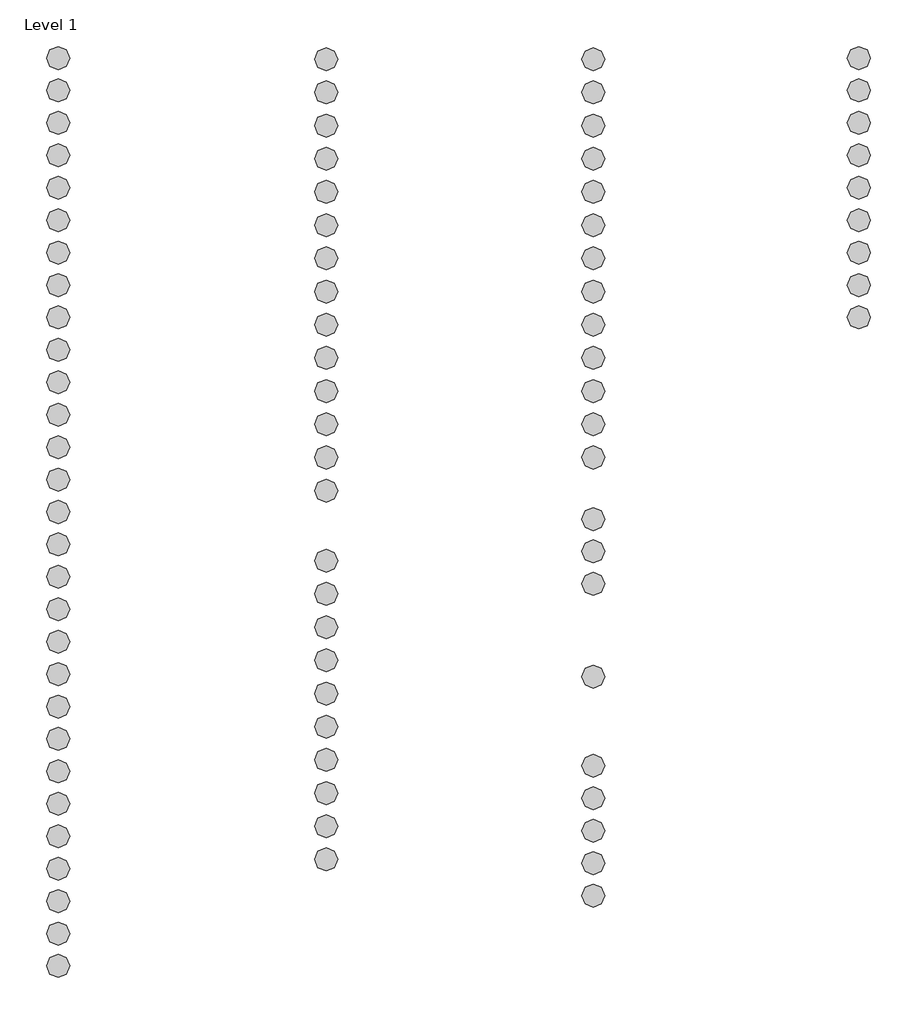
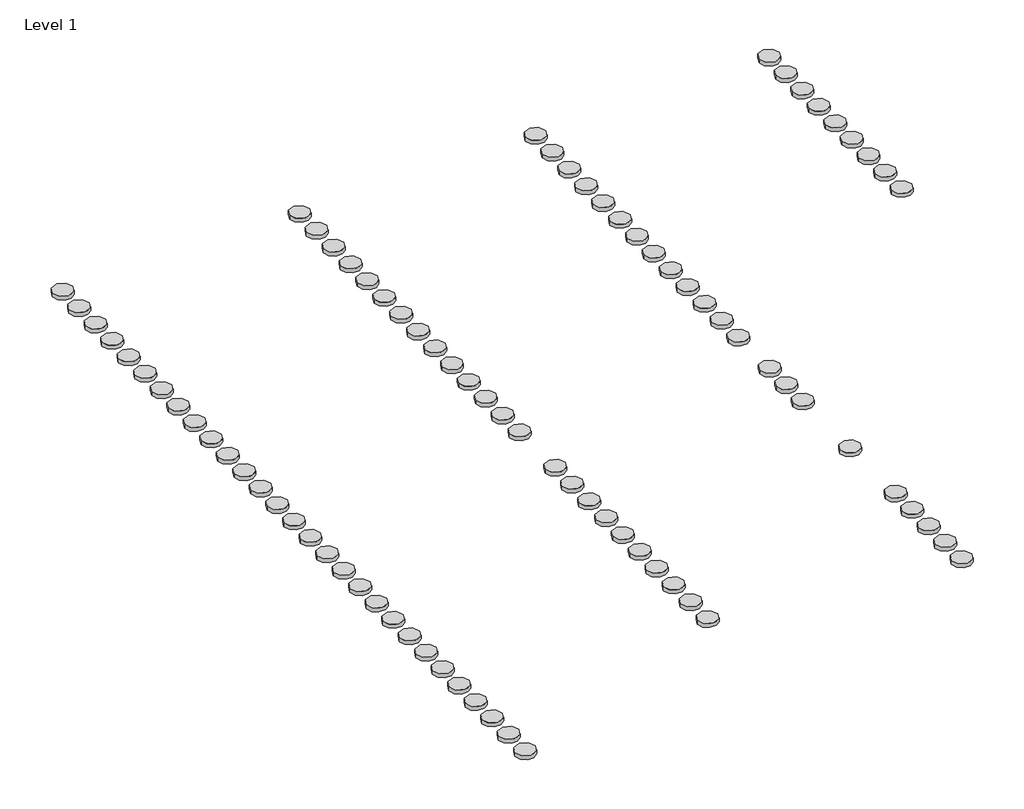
# One storey: 84 proxies.
"""IFC4 building model written with IfcOpenShell, lengths in millimetres."""

from ifc_helpers import new_model, si_unit, origin, place, context, project, spatial, transform, mapped, element, save
from components import materialmodel_materialmodel_58669afb

model = new_model("IFC4")

# Units and contexts
model_context = context("Model", 3, world=origin())
ifc_project = project(units=[si_unit("LENGTHUNIT", "METRE", prefix="MILLI")], contexts=[model_context])

# Site, building, storey
site = spatial("IfcSite", under=ifc_project)
building = spatial("IfcBuilding", under=site)
storey = spatial("IfcBuildingStorey", under=building, Name="Level 1", Elevation=0.0)

# Proxies
placement = place(None, origin())
materialmodel_materialmodel_shape = materialmodel_materialmodel_58669afb(model_context)
element("IfcBuildingElementProxy", 1, Name="MaterialModel : MaterialModel", ObjectType="MaterialModel : MaterialModel", at=placement, inside=storey, context=model_context, shape_type="MappedRepresentation", body=[
    mapped(materialmodel_materialmodel_shape, transform((-8374.1084344, 5998.17791, 0.0), x_axis=(1.0, 0.0, 0.0), y_axis=(0.0, 1.0, 0.0), z_axis=(0.0, 0.0, 1.0))),
])
element("IfcBuildingElementProxy", 2, Name="MaterialModel : MaterialModel", ObjectType="MaterialModel : MaterialModel", at=placement, inside=storey, context=model_context, shape_type="MappedRepresentation", body=[
    mapped(materialmodel_materialmodel_shape, transform((-8374.1084344, 5857.2060987, 0.0), x_axis=(1.0, 0.0, 0.0), y_axis=(0.0, 1.0, 0.0), z_axis=(0.0, 0.0, 1.0))),
])
element("IfcBuildingElementProxy", 3, Name="MaterialModel : MaterialModel", ObjectType="MaterialModel : MaterialModel", at=placement, inside=storey, context=model_context, shape_type="MappedRepresentation", body=[
    mapped(materialmodel_materialmodel_shape, transform((-7208.767327, 3812.5960294, 0.0), x_axis=(1.0, 0.0, 0.0), y_axis=(0.0, 1.0, 0.0), z_axis=(0.0, 0.0, 1.0))),
])
element("IfcBuildingElementProxy", 4, Name="MaterialModel : MaterialModel", ObjectType="MaterialModel : MaterialModel", at=placement, inside=storey, context=model_context, shape_type="MappedRepresentation", body=[
    mapped(materialmodel_materialmodel_shape, transform((-7208.767327, 3668.2908848, 0.0), x_axis=(1.0, 0.0, 0.0), y_axis=(0.0, 1.0, 0.0), z_axis=(0.0, 0.0, 1.0))),
])
element("IfcBuildingElementProxy", 5, Name="MaterialModel : MaterialModel", ObjectType="MaterialModel : MaterialModel", at=placement, inside=storey, context=model_context, shape_type="MappedRepresentation", body=[
    mapped(materialmodel_materialmodel_shape, transform((-7208.767327, 3379.6805955, 0.0), x_axis=(1.0, 0.0, 0.0), y_axis=(0.0, 1.0, 0.0), z_axis=(0.0, 0.0, 1.0))),
])
element("IfcBuildingElementProxy", 6, Name="MaterialModel : MaterialModel", ObjectType="MaterialModel : MaterialModel", at=placement, inside=storey, context=model_context, shape_type="MappedRepresentation", body=[
    mapped(materialmodel_materialmodel_shape, transform((-6047.3337418, 5993.17791, 0.0), x_axis=(1.0, 0.0, 0.0), y_axis=(0.0, 1.0, 0.0), z_axis=(0.0, 0.0, 1.0))),
])
element("IfcBuildingElementProxy", 7, Name="MaterialModel : MaterialModel", ObjectType="MaterialModel : MaterialModel", at=placement, inside=storey, context=model_context, shape_type="MappedRepresentation", body=[
    mapped(materialmodel_materialmodel_shape, transform((-8374.1084344, 5716.2342874, 0.0), x_axis=(1.0, 0.0, 0.0), y_axis=(0.0, 1.0, 0.0), z_axis=(0.0, 0.0, 1.0))),
])
element("IfcBuildingElementProxy", 8, Name="MaterialModel : MaterialModel", ObjectType="MaterialModel : MaterialModel", at=placement, inside=storey, context=model_context, shape_type="MappedRepresentation", body=[
    mapped(materialmodel_materialmodel_shape, transform((-8374.1084344, 5575.2624761, 0.0), x_axis=(1.0, 0.0, 0.0), y_axis=(0.0, 1.0, 0.0), z_axis=(0.0, 0.0, 1.0))),
])
element("IfcBuildingElementProxy", 9, Name="MaterialModel : MaterialModel", ObjectType="MaterialModel : MaterialModel", at=placement, inside=storey, context=model_context, shape_type="MappedRepresentation", body=[
    mapped(materialmodel_materialmodel_shape, transform((-6047.3337418, 5560.2624761, 0.0), x_axis=(1.0, 0.0, 0.0), y_axis=(0.0, 1.0, 0.0), z_axis=(0.0, 0.0, 1.0))),
])
element("IfcBuildingElementProxy", 10, Name="MaterialModel : MaterialModel", ObjectType="MaterialModel : MaterialModel", at=placement, inside=storey, context=model_context, shape_type="MappedRepresentation", body=[
    mapped(materialmodel_materialmodel_shape, transform((-6047.3337418, 3993.8459485, 0.0), x_axis=(1.0, 0.0, 0.0), y_axis=(0.0, 1.0, 0.0), z_axis=(0.0, 0.0, 1.0))),
])
element("IfcBuildingElementProxy", 11, Name="MaterialModel : MaterialModel", ObjectType="MaterialModel : MaterialModel", at=placement, inside=storey, context=model_context, shape_type="MappedRepresentation", body=[
    mapped(materialmodel_materialmodel_shape, transform((-6047.3337418, 3852.8741372, 0.0), x_axis=(1.0, 0.0, 0.0), y_axis=(0.0, 1.0, 0.0), z_axis=(0.0, 0.0, 1.0))),
])
element("IfcBuildingElementProxy", 12, Name="MaterialModel : MaterialModel", ObjectType="MaterialModel : MaterialModel", at=placement, inside=storey, context=model_context, shape_type="MappedRepresentation", body=[
    mapped(materialmodel_materialmodel_shape, transform((-6047.3337418, 3308.8725927, 0.0), x_axis=(1.0, 0.0, 0.0), y_axis=(0.0, 1.0, 0.0), z_axis=(0.0, 0.0, 1.0))),
])
element("IfcBuildingElementProxy", 13, Name="MaterialModel : MaterialModel", ObjectType="MaterialModel : MaterialModel", at=placement, inside=storey, context=model_context, shape_type="MappedRepresentation", body=[
    mapped(materialmodel_materialmodel_shape, transform((-6047.3337418, 2921.0835593, 0.0), x_axis=(1.0, 0.0, 0.0), y_axis=(0.0, 1.0, 0.0), z_axis=(0.0, 0.0, 1.0))),
])
element("IfcBuildingElementProxy", 14, Name="MaterialModel : MaterialModel", ObjectType="MaterialModel : MaterialModel", at=placement, inside=storey, context=model_context, shape_type="MappedRepresentation", body=[
    mapped(materialmodel_materialmodel_shape, transform((-6047.3337418, 5415.9573314, 0.0), x_axis=(1.0, 0.0, 0.0), y_axis=(0.0, 1.0, 0.0), z_axis=(0.0, 0.0, 1.0))),
])
element("IfcBuildingElementProxy", 15, Name="MaterialModel : MaterialModel", ObjectType="MaterialModel : MaterialModel", at=placement, inside=storey, context=model_context, shape_type="MappedRepresentation", body=[
    mapped(materialmodel_materialmodel_shape, transform((-6047.3337418, 5271.6521868, 0.0), x_axis=(1.0, 0.0, 0.0), y_axis=(0.0, 1.0, 0.0), z_axis=(0.0, 0.0, 1.0))),
])
element("IfcBuildingElementProxy", 16, Name="MaterialModel : MaterialModel", ObjectType="MaterialModel : MaterialModel", at=placement, inside=storey, context=model_context, shape_type="MappedRepresentation", body=[
    mapped(materialmodel_materialmodel_shape, transform((-6047.3337418, 5127.3470422, 0.0), x_axis=(1.0, 0.0, 0.0), y_axis=(0.0, 1.0, 0.0), z_axis=(0.0, 0.0, 1.0))),
])
element("IfcBuildingElementProxy", 17, Name="MaterialModel : MaterialModel", ObjectType="MaterialModel : MaterialModel", at=placement, inside=storey, context=model_context, shape_type="MappedRepresentation", body=[
    mapped(materialmodel_materialmodel_shape, transform((-7208.767327, 5993.17791, 0.0), x_axis=(1.0, 0.0, 0.0), y_axis=(0.0, 1.0, 0.0), z_axis=(0.0, 0.0, 1.0))),
])
element("IfcBuildingElementProxy", 18, Name="MaterialModel : MaterialModel", ObjectType="MaterialModel : MaterialModel", at=placement, inside=storey, context=model_context, shape_type="MappedRepresentation", body=[
    mapped(materialmodel_materialmodel_shape, transform((-7208.767327, 5848.8727653, 0.0), x_axis=(1.0, 0.0, 0.0), y_axis=(0.0, 1.0, 0.0), z_axis=(0.0, 0.0, 1.0))),
])
element("IfcBuildingElementProxy", 19, Name="MaterialModel : MaterialModel", ObjectType="MaterialModel : MaterialModel", at=placement, inside=storey, context=model_context, shape_type="MappedRepresentation", body=[
    mapped(materialmodel_materialmodel_shape, transform((-8374.1084344, 5434.2906648, 0.0), x_axis=(1.0, 0.0, 0.0), y_axis=(0.0, 1.0, 0.0), z_axis=(0.0, 0.0, 1.0))),
])
element("IfcBuildingElementProxy", 20, Name="MaterialModel : MaterialModel", ObjectType="MaterialModel : MaterialModel", at=placement, inside=storey, context=model_context, shape_type="MappedRepresentation", body=[
    mapped(materialmodel_materialmodel_shape, transform((-7208.767327, 5560.2624761, 0.0), x_axis=(1.0, 0.0, 0.0), y_axis=(0.0, 1.0, 0.0), z_axis=(0.0, 0.0, 1.0))),
])
element("IfcBuildingElementProxy", 21, Name="MaterialModel : MaterialModel", ObjectType="MaterialModel : MaterialModel", at=placement, inside=storey, context=model_context, shape_type="MappedRepresentation", body=[
    mapped(materialmodel_materialmodel_shape, transform((-7208.767327, 5415.9573314, 0.0), x_axis=(1.0, 0.0, 0.0), y_axis=(0.0, 1.0, 0.0), z_axis=(0.0, 0.0, 1.0))),
])
element("IfcBuildingElementProxy", 22, Name="MaterialModel : MaterialModel", ObjectType="MaterialModel : MaterialModel", at=placement, inside=storey, context=model_context, shape_type="MappedRepresentation", body=[
    mapped(materialmodel_materialmodel_shape, transform((-8374.1084344, 5293.3188535, 0.0), x_axis=(1.0, 0.0, 0.0), y_axis=(0.0, 1.0, 0.0), z_axis=(0.0, 0.0, 1.0))),
])
element("IfcBuildingElementProxy", 23, Name="MaterialModel : MaterialModel", ObjectType="MaterialModel : MaterialModel", at=placement, inside=storey, context=model_context, shape_type="MappedRepresentation", body=[
    mapped(materialmodel_materialmodel_shape, transform((-8374.1084344, 4729.4316083, 0.0), x_axis=(1.0, 0.0, 0.0), y_axis=(0.0, 1.0, 0.0), z_axis=(0.0, 0.0, 1.0))),
])
element("IfcBuildingElementProxy", 24, Name="MaterialModel : MaterialModel", ObjectType="MaterialModel : MaterialModel", at=placement, inside=storey, context=model_context, shape_type="MappedRepresentation", body=[
    mapped(materialmodel_materialmodel_shape, transform((-8374.1084344, 4588.459797, 0.0), x_axis=(1.0, 0.0, 0.0), y_axis=(0.0, 1.0, 0.0), z_axis=(0.0, 0.0, 1.0))),
])
element("IfcBuildingElementProxy", 25, Name="MaterialModel : MaterialModel", ObjectType="MaterialModel : MaterialModel", at=placement, inside=storey, context=model_context, shape_type="MappedRepresentation", body=[
    mapped(materialmodel_materialmodel_shape, transform((-8374.1084344, 4447.4879857, 0.0), x_axis=(1.0, 0.0, 0.0), y_axis=(0.0, 1.0, 0.0), z_axis=(0.0, 0.0, 1.0))),
])
element("IfcBuildingElementProxy", 26, Name="MaterialModel : MaterialModel", ObjectType="MaterialModel : MaterialModel", at=placement, inside=storey, context=model_context, shape_type="MappedRepresentation", body=[
    mapped(materialmodel_materialmodel_shape, transform((-8374.1084344, 4306.5161744, 0.0), x_axis=(1.0, 0.0, 0.0), y_axis=(0.0, 1.0, 0.0), z_axis=(0.0, 0.0, 1.0))),
])
element("IfcBuildingElementProxy", 27, Name="MaterialModel : MaterialModel", ObjectType="MaterialModel : MaterialModel", at=placement, inside=storey, context=model_context, shape_type="MappedRepresentation", body=[
    mapped(materialmodel_materialmodel_shape, transform((-8374.1084344, 4165.5443631, 0.0), x_axis=(1.0, 0.0, 0.0), y_axis=(0.0, 1.0, 0.0), z_axis=(0.0, 0.0, 1.0))),
])
element("IfcBuildingElementProxy", 28, Name="MaterialModel : MaterialModel", ObjectType="MaterialModel : MaterialModel", at=placement, inside=storey, context=model_context, shape_type="MappedRepresentation", body=[
    mapped(materialmodel_materialmodel_shape, transform((-8374.1084344, 3883.6007405, 0.0), x_axis=(1.0, 0.0, 0.0), y_axis=(0.0, 1.0, 0.0), z_axis=(0.0, 0.0, 1.0))),
])
element("IfcBuildingElementProxy", 29, Name="MaterialModel : MaterialModel", ObjectType="MaterialModel : MaterialModel", at=placement, inside=storey, context=model_context, shape_type="MappedRepresentation", body=[
    mapped(materialmodel_materialmodel_shape, transform((-7208.767327, 5271.6521868, 0.0), x_axis=(1.0, 0.0, 0.0), y_axis=(0.0, 1.0, 0.0), z_axis=(0.0, 0.0, 1.0))),
])
element("IfcBuildingElementProxy", 30, Name="MaterialModel : MaterialModel", ObjectType="MaterialModel : MaterialModel", at=placement, inside=storey, context=model_context, shape_type="MappedRepresentation", body=[
    mapped(materialmodel_materialmodel_shape, transform((-6047.3337418, 2780.111748, 0.0), x_axis=(1.0, 0.0, 0.0), y_axis=(0.0, 1.0, 0.0), z_axis=(0.0, 0.0, 1.0))),
])
element("IfcBuildingElementProxy", 31, Name="MaterialModel : MaterialModel", ObjectType="MaterialModel : MaterialModel", at=placement, inside=storey, context=model_context, shape_type="MappedRepresentation", body=[
    mapped(materialmodel_materialmodel_shape, transform((-6047.3337418, 2639.1399367, 0.0), x_axis=(1.0, 0.0, 0.0), y_axis=(0.0, 1.0, 0.0), z_axis=(0.0, 0.0, 1.0))),
])
element("IfcBuildingElementProxy", 32, Name="MaterialModel : MaterialModel", ObjectType="MaterialModel : MaterialModel", at=placement, inside=storey, context=model_context, shape_type="MappedRepresentation", body=[
    mapped(materialmodel_materialmodel_shape, transform((-7208.767327, 3235.3754509, 0.0), x_axis=(1.0, 0.0, 0.0), y_axis=(0.0, 1.0, 0.0), z_axis=(0.0, 0.0, 1.0))),
])
element("IfcBuildingElementProxy", 33, Name="MaterialModel : MaterialModel", ObjectType="MaterialModel : MaterialModel", at=placement, inside=storey, context=model_context, shape_type="MappedRepresentation", body=[
    mapped(materialmodel_materialmodel_shape, transform((-7208.767327, 3091.0703062, 0.0), x_axis=(1.0, 0.0, 0.0), y_axis=(0.0, 1.0, 0.0), z_axis=(0.0, 0.0, 1.0))),
])
element("IfcBuildingElementProxy", 34, Name="MaterialModel : MaterialModel", ObjectType="MaterialModel : MaterialModel", at=placement, inside=storey, context=model_context, shape_type="MappedRepresentation", body=[
    mapped(materialmodel_materialmodel_shape, transform((-6047.3337418, 4838.7367529, 0.0), x_axis=(1.0, 0.0, 0.0), y_axis=(0.0, 1.0, 0.0), z_axis=(0.0, 0.0, 1.0))),
])
element("IfcBuildingElementProxy", 35, Name="MaterialModel : MaterialModel", ObjectType="MaterialModel : MaterialModel", at=placement, inside=storey, context=model_context, shape_type="MappedRepresentation", body=[
    mapped(materialmodel_materialmodel_shape, transform((-8374.1084344, 4024.5725518, 0.0), x_axis=(1.0, 0.0, 0.0), y_axis=(0.0, 1.0, 0.0), z_axis=(0.0, 0.0, 1.0))),
])
element("IfcBuildingElementProxy", 36, Name="MaterialModel : MaterialModel", ObjectType="MaterialModel : MaterialModel", at=placement, inside=storey, context=model_context, shape_type="MappedRepresentation", body=[
    mapped(materialmodel_materialmodel_shape, transform((-8374.1084344, 3601.6571179, 0.0), x_axis=(1.0, 0.0, 0.0), y_axis=(0.0, 1.0, 0.0), z_axis=(0.0, 0.0, 1.0))),
])
element("IfcBuildingElementProxy", 37, Name="MaterialModel : MaterialModel", ObjectType="MaterialModel : MaterialModel", at=placement, inside=storey, context=model_context, shape_type="MappedRepresentation", body=[
    mapped(materialmodel_materialmodel_shape, transform((-8374.1084344, 3460.6853066, 0.0), x_axis=(1.0, 0.0, 0.0), y_axis=(0.0, 1.0, 0.0), z_axis=(0.0, 0.0, 1.0))),
])
element("IfcBuildingElementProxy", 38, Name="MaterialModel : MaterialModel", ObjectType="MaterialModel : MaterialModel", at=placement, inside=storey, context=model_context, shape_type="MappedRepresentation", body=[
    mapped(materialmodel_materialmodel_shape, transform((-8374.1084344, 3319.7134953, 0.0), x_axis=(1.0, 0.0, 0.0), y_axis=(0.0, 1.0, 0.0), z_axis=(0.0, 0.0, 1.0))),
])
element("IfcBuildingElementProxy", 39, Name="MaterialModel : MaterialModel", ObjectType="MaterialModel : MaterialModel", at=placement, inside=storey, context=model_context, shape_type="MappedRepresentation", body=[
    mapped(materialmodel_materialmodel_shape, transform((-7208.767327, 5127.3470422, 0.0), x_axis=(1.0, 0.0, 0.0), y_axis=(0.0, 1.0, 0.0), z_axis=(0.0, 0.0, 1.0))),
])
element("IfcBuildingElementProxy", 40, Name="MaterialModel : MaterialModel", ObjectType="MaterialModel : MaterialModel", at=placement, inside=storey, context=model_context, shape_type="MappedRepresentation", body=[
    mapped(materialmodel_materialmodel_shape, transform((-7208.767327, 4983.0418975, 0.0), x_axis=(1.0, 0.0, 0.0), y_axis=(0.0, 1.0, 0.0), z_axis=(0.0, 0.0, 1.0))),
])
element("IfcBuildingElementProxy", 41, Name="MaterialModel : MaterialModel", ObjectType="MaterialModel : MaterialModel", at=placement, inside=storey, context=model_context, shape_type="MappedRepresentation", body=[
    mapped(materialmodel_materialmodel_shape, transform((-7208.767327, 4838.7367529, 0.0), x_axis=(1.0, 0.0, 0.0), y_axis=(0.0, 1.0, 0.0), z_axis=(0.0, 0.0, 1.0))),
])
element("IfcBuildingElementProxy", 42, Name="MaterialModel : MaterialModel", ObjectType="MaterialModel : MaterialModel", at=placement, inside=storey, context=model_context, shape_type="MappedRepresentation", body=[
    mapped(materialmodel_materialmodel_shape, transform((-8374.1084344, 5011.3752309, 0.0), x_axis=(1.0, 0.0, 0.0), y_axis=(0.0, 1.0, 0.0), z_axis=(0.0, 0.0, 1.0))),
])
element("IfcBuildingElementProxy", 43, Name="MaterialModel : MaterialModel", ObjectType="MaterialModel : MaterialModel", at=placement, inside=storey, context=model_context, shape_type="MappedRepresentation", body=[
    mapped(materialmodel_materialmodel_shape, transform((-7208.767327, 4694.4316083, 0.0), x_axis=(1.0, 0.0, 0.0), y_axis=(0.0, 1.0, 0.0), z_axis=(0.0, 0.0, 1.0))),
])
element("IfcBuildingElementProxy", 44, Name="MaterialModel : MaterialModel", ObjectType="MaterialModel : MaterialModel", at=placement, inside=storey, context=model_context, shape_type="MappedRepresentation", body=[
    mapped(materialmodel_materialmodel_shape, transform((-7208.767327, 4117.2110297, 0.0), x_axis=(1.0, 0.0, 0.0), y_axis=(0.0, 1.0, 0.0), z_axis=(0.0, 0.0, 1.0))),
])
element("IfcBuildingElementProxy", 45, Name="MaterialModel : MaterialModel", ObjectType="MaterialModel : MaterialModel", at=placement, inside=storey, context=model_context, shape_type="MappedRepresentation", body=[
    mapped(materialmodel_materialmodel_shape, transform((-8374.1084344, 3178.741684, 0.0), x_axis=(1.0, 0.0, 0.0), y_axis=(0.0, 1.0, 0.0), z_axis=(0.0, 0.0, 1.0))),
])
element("IfcBuildingElementProxy", 46, Name="MaterialModel : MaterialModel", ObjectType="MaterialModel : MaterialModel", at=placement, inside=storey, context=model_context, shape_type="MappedRepresentation", body=[
    mapped(materialmodel_materialmodel_shape, transform((-8374.1084344, 3037.7698727, 0.0), x_axis=(1.0, 0.0, 0.0), y_axis=(0.0, 1.0, 0.0), z_axis=(0.0, 0.0, 1.0))),
])
element("IfcBuildingElementProxy", 47, Name="MaterialModel : MaterialModel", ObjectType="MaterialModel : MaterialModel", at=placement, inside=storey, context=model_context, shape_type="MappedRepresentation", body=[
    mapped(materialmodel_materialmodel_shape, transform((-8374.1084344, 2896.7980614, 0.0), x_axis=(1.0, 0.0, 0.0), y_axis=(0.0, 1.0, 0.0), z_axis=(0.0, 0.0, 1.0))),
])
element("IfcBuildingElementProxy", 48, Name="MaterialModel : MaterialModel", ObjectType="MaterialModel : MaterialModel", at=placement, inside=storey, context=model_context, shape_type="MappedRepresentation", body=[
    mapped(materialmodel_materialmodel_shape, transform((-8374.1084344, 2755.8262501, 0.0), x_axis=(1.0, 0.0, 0.0), y_axis=(0.0, 1.0, 0.0), z_axis=(0.0, 0.0, 1.0))),
])
element("IfcBuildingElementProxy", 49, Name="MaterialModel : MaterialModel", ObjectType="MaterialModel : MaterialModel", at=placement, inside=storey, context=model_context, shape_type="MappedRepresentation", body=[
    mapped(materialmodel_materialmodel_shape, transform((-7208.767327, 4405.821319, 0.0), x_axis=(1.0, 0.0, 0.0), y_axis=(0.0, 1.0, 0.0), z_axis=(0.0, 0.0, 1.0))),
])
element("IfcBuildingElementProxy", 50, Name="MaterialModel : MaterialModel", ObjectType="MaterialModel : MaterialModel", at=placement, inside=storey, context=model_context, shape_type="MappedRepresentation", body=[
    mapped(materialmodel_materialmodel_shape, transform((-7208.767327, 4261.5161744, 0.0), x_axis=(1.0, 0.0, 0.0), y_axis=(0.0, 1.0, 0.0), z_axis=(0.0, 0.0, 1.0))),
])
element("IfcBuildingElementProxy", 51, Name="MaterialModel : MaterialModel", ObjectType="MaterialModel : MaterialModel", at=placement, inside=storey, context=model_context, shape_type="MappedRepresentation", body=[
    mapped(materialmodel_materialmodel_shape, transform((-6047.3337418, 2498.1681254, 0.0), x_axis=(1.0, 0.0, 0.0), y_axis=(0.0, 1.0, 0.0), z_axis=(0.0, 0.0, 1.0))),
])
element("IfcBuildingElementProxy", 52, Name="MaterialModel : MaterialModel", ObjectType="MaterialModel : MaterialModel", at=placement, inside=storey, context=model_context, shape_type="MappedRepresentation", body=[
    mapped(materialmodel_materialmodel_shape, transform((-6047.3337418, 5848.8727653, 0.0), x_axis=(1.0, 0.0, 0.0), y_axis=(0.0, 1.0, 0.0), z_axis=(0.0, 0.0, 1.0))),
])
element("IfcBuildingElementProxy", 53, Name="MaterialModel : MaterialModel", ObjectType="MaterialModel : MaterialModel", at=placement, inside=storey, context=model_context, shape_type="MappedRepresentation", body=[
    mapped(materialmodel_materialmodel_shape, transform((-4892.3111127, 5998.17791, 0.0), x_axis=(1.0, 0.0, 0.0), y_axis=(0.0, 1.0, 0.0), z_axis=(0.0, 0.0, 1.0))),
])
element("IfcBuildingElementProxy", 54, Name="MaterialModel : MaterialModel", ObjectType="MaterialModel : MaterialModel", at=placement, inside=storey, context=model_context, shape_type="MappedRepresentation", body=[
    mapped(materialmodel_materialmodel_shape, transform((-4892.3111127, 5857.2060987, 0.0), x_axis=(1.0, 0.0, 0.0), y_axis=(0.0, 1.0, 0.0), z_axis=(0.0, 0.0, 1.0))),
])
element("IfcBuildingElementProxy", 55, Name="MaterialModel : MaterialModel", ObjectType="MaterialModel : MaterialModel", at=placement, inside=storey, context=model_context, shape_type="MappedRepresentation", body=[
    mapped(materialmodel_materialmodel_shape, transform((-4892.3111127, 5716.2342874, 0.0), x_axis=(1.0, 0.0, 0.0), y_axis=(0.0, 1.0, 0.0), z_axis=(0.0, 0.0, 1.0))),
])
element("IfcBuildingElementProxy", 56, Name="MaterialModel : MaterialModel", ObjectType="MaterialModel : MaterialModel", at=placement, inside=storey, context=model_context, shape_type="MappedRepresentation", body=[
    mapped(materialmodel_materialmodel_shape, transform((-4892.3111127, 5575.2624761, 0.0), x_axis=(1.0, 0.0, 0.0), y_axis=(0.0, 1.0, 0.0), z_axis=(0.0, 0.0, 1.0))),
])
element("IfcBuildingElementProxy", 57, Name="MaterialModel : MaterialModel", ObjectType="MaterialModel : MaterialModel", at=placement, inside=storey, context=model_context, shape_type="MappedRepresentation", body=[
    mapped(materialmodel_materialmodel_shape, transform((-4892.3111127, 5434.2906648, 0.0), x_axis=(1.0, 0.0, 0.0), y_axis=(0.0, 1.0, 0.0), z_axis=(0.0, 0.0, 1.0))),
])
element("IfcBuildingElementProxy", 58, Name="MaterialModel : MaterialModel", ObjectType="MaterialModel : MaterialModel", at=placement, inside=storey, context=model_context, shape_type="MappedRepresentation", body=[
    mapped(materialmodel_materialmodel_shape, transform((-4892.3111127, 5293.3188535, 0.0), x_axis=(1.0, 0.0, 0.0), y_axis=(0.0, 1.0, 0.0), z_axis=(0.0, 0.0, 1.0))),
])
element("IfcBuildingElementProxy", 59, Name="MaterialModel : MaterialModel", ObjectType="MaterialModel : MaterialModel", at=placement, inside=storey, context=model_context, shape_type="MappedRepresentation", body=[
    mapped(materialmodel_materialmodel_shape, transform((-4892.3111127, 5152.3470422, 0.0), x_axis=(1.0, 0.0, 0.0), y_axis=(0.0, 1.0, 0.0), z_axis=(0.0, 0.0, 1.0))),
])
element("IfcBuildingElementProxy", 60, Name="MaterialModel : MaterialModel", ObjectType="MaterialModel : MaterialModel", at=placement, inside=storey, context=model_context, shape_type="MappedRepresentation", body=[
    mapped(materialmodel_materialmodel_shape, transform((-4892.3111127, 5011.3752309, 0.0), x_axis=(1.0, 0.0, 0.0), y_axis=(0.0, 1.0, 0.0), z_axis=(0.0, 0.0, 1.0))),
])
element("IfcBuildingElementProxy", 61, Name="MaterialModel : MaterialModel", ObjectType="MaterialModel : MaterialModel", at=placement, inside=storey, context=model_context, shape_type="MappedRepresentation", body=[
    mapped(materialmodel_materialmodel_shape, transform((-4892.3111127, 4870.4034196, 0.0), x_axis=(1.0, 0.0, 0.0), y_axis=(0.0, 1.0, 0.0), z_axis=(0.0, 0.0, 1.0))),
])
element("IfcBuildingElementProxy", 62, Name="MaterialModel : MaterialModel", ObjectType="MaterialModel : MaterialModel", at=placement, inside=storey, context=model_context, shape_type="MappedRepresentation", body=[
    mapped(materialmodel_materialmodel_shape, transform((-6047.3337418, 3711.9023259, 0.0), x_axis=(1.0, 0.0, 0.0), y_axis=(0.0, 1.0, 0.0), z_axis=(0.0, 0.0, 1.0))),
])
element("IfcBuildingElementProxy", 63, Name="MaterialModel : MaterialModel", ObjectType="MaterialModel : MaterialModel", at=placement, inside=storey, context=model_context, shape_type="MappedRepresentation", body=[
    mapped(materialmodel_materialmodel_shape, transform((-8374.1084344, 2614.8544388, 0.0), x_axis=(1.0, 0.0, 0.0), y_axis=(0.0, 1.0, 0.0), z_axis=(0.0, 0.0, 1.0))),
])
element("IfcBuildingElementProxy", 64, Name="MaterialModel : MaterialModel", ObjectType="MaterialModel : MaterialModel", at=placement, inside=storey, context=model_context, shape_type="MappedRepresentation", body=[
    mapped(materialmodel_materialmodel_shape, transform((-8374.1084344, 2473.8826275, 0.0), x_axis=(1.0, 0.0, 0.0), y_axis=(0.0, 1.0, 0.0), z_axis=(0.0, 0.0, 1.0))),
])
element("IfcBuildingElementProxy", 65, Name="MaterialModel : MaterialModel", ObjectType="MaterialModel : MaterialModel", at=placement, inside=storey, context=model_context, shape_type="MappedRepresentation", body=[
    mapped(materialmodel_materialmodel_shape, transform((-8374.1084344, 2332.9108162, 0.0), x_axis=(1.0, 0.0, 0.0), y_axis=(0.0, 1.0, 0.0), z_axis=(0.0, 0.0, 1.0))),
])
element("IfcBuildingElementProxy", 66, Name="MaterialModel : MaterialModel", ObjectType="MaterialModel : MaterialModel", at=placement, inside=storey, context=model_context, shape_type="MappedRepresentation", body=[
    mapped(materialmodel_materialmodel_shape, transform((-7208.767327, 2946.7651616, 0.0), x_axis=(1.0, 0.0, 0.0), y_axis=(0.0, 1.0, 0.0), z_axis=(0.0, 0.0, 1.0))),
])
element("IfcBuildingElementProxy", 67, Name="MaterialModel : MaterialModel", ObjectType="MaterialModel : MaterialModel", at=placement, inside=storey, context=model_context, shape_type="MappedRepresentation", body=[
    mapped(materialmodel_materialmodel_shape, transform((-7208.767327, 2802.460017, 0.0), x_axis=(1.0, 0.0, 0.0), y_axis=(0.0, 1.0, 0.0), z_axis=(0.0, 0.0, 1.0))),
])
element("IfcBuildingElementProxy", 68, Name="MaterialModel : MaterialModel", ObjectType="MaterialModel : MaterialModel", at=placement, inside=storey, context=model_context, shape_type="MappedRepresentation", body=[
    mapped(materialmodel_materialmodel_shape, transform((-7208.767327, 2513.8497277, 0.0), x_axis=(1.0, 0.0, 0.0), y_axis=(0.0, 1.0, 0.0), z_axis=(0.0, 0.0, 1.0))),
])
element("IfcBuildingElementProxy", 69, Name="MaterialModel : MaterialModel", ObjectType="MaterialModel : MaterialModel", at=placement, inside=storey, context=model_context, shape_type="MappedRepresentation", body=[
    mapped(materialmodel_materialmodel_shape, transform((-7208.767327, 3523.9857401, 0.0), x_axis=(1.0, 0.0, 0.0), y_axis=(0.0, 1.0, 0.0), z_axis=(0.0, 0.0, 1.0))),
])
element("IfcBuildingElementProxy", 70, Name="MaterialModel : MaterialModel", ObjectType="MaterialModel : MaterialModel", at=placement, inside=storey, context=model_context, shape_type="MappedRepresentation", body=[
    mapped(materialmodel_materialmodel_shape, transform((-8374.1084344, 2191.9390049, 0.0), x_axis=(1.0, 0.0, 0.0), y_axis=(0.0, 1.0, 0.0), z_axis=(0.0, 0.0, 1.0))),
])
element("IfcBuildingElementProxy", 71, Name="MaterialModel : MaterialModel", ObjectType="MaterialModel : MaterialModel", at=placement, inside=storey, context=model_context, shape_type="MappedRepresentation", body=[
    mapped(materialmodel_materialmodel_shape, transform((-6047.3337418, 4694.4316083, 0.0), x_axis=(1.0, 0.0, 0.0), y_axis=(0.0, 1.0, 0.0), z_axis=(0.0, 0.0, 1.0))),
])
element("IfcBuildingElementProxy", 72, Name="MaterialModel : MaterialModel", ObjectType="MaterialModel : MaterialModel", at=placement, inside=storey, context=model_context, shape_type="MappedRepresentation", body=[
    mapped(materialmodel_materialmodel_shape, transform((-6047.3337418, 2357.1963141, 0.0), x_axis=(1.0, 0.0, 0.0), y_axis=(0.0, 1.0, 0.0), z_axis=(0.0, 0.0, 1.0))),
])
element("IfcBuildingElementProxy", 73, Name="MaterialModel : MaterialModel", ObjectType="MaterialModel : MaterialModel", at=placement, inside=storey, context=model_context, shape_type="MappedRepresentation", body=[
    mapped(materialmodel_materialmodel_shape, transform((-8374.1084344, 2050.9671936, 0.0), x_axis=(1.0, 0.0, 0.0), y_axis=(0.0, 1.0, 0.0), z_axis=(0.0, 0.0, 1.0))),
])
element("IfcBuildingElementProxy", 74, Name="MaterialModel : MaterialModel", ObjectType="MaterialModel : MaterialModel", at=placement, inside=storey, context=model_context, shape_type="MappedRepresentation", body=[
    mapped(materialmodel_materialmodel_shape, transform((-8374.1084344, 3742.6289292, 0.0), x_axis=(1.0, 0.0, 0.0), y_axis=(0.0, 1.0, 0.0), z_axis=(0.0, 0.0, 1.0))),
])
element("IfcBuildingElementProxy", 75, Name="MaterialModel : MaterialModel", ObjectType="MaterialModel : MaterialModel", at=placement, inside=storey, context=model_context, shape_type="MappedRepresentation", body=[
    mapped(materialmodel_materialmodel_shape, transform((-6047.3337418, 4550.1264636, 0.0), x_axis=(1.0, 0.0, 0.0), y_axis=(0.0, 1.0, 0.0), z_axis=(0.0, 0.0, 1.0))),
])
element("IfcBuildingElementProxy", 76, Name="MaterialModel : MaterialModel", ObjectType="MaterialModel : MaterialModel", at=placement, inside=storey, context=model_context, shape_type="MappedRepresentation", body=[
    mapped(materialmodel_materialmodel_shape, transform((-6047.3337418, 4261.5161744, 0.0), x_axis=(1.0, 0.0, 0.0), y_axis=(0.0, 1.0, 0.0), z_axis=(0.0, 0.0, 1.0))),
])
element("IfcBuildingElementProxy", 77, Name="MaterialModel : MaterialModel", ObjectType="MaterialModel : MaterialModel", at=placement, inside=storey, context=model_context, shape_type="MappedRepresentation", body=[
    mapped(materialmodel_materialmodel_shape, transform((-7208.767327, 5704.5676207, 0.0), x_axis=(1.0, 0.0, 0.0), y_axis=(0.0, 1.0, 0.0), z_axis=(0.0, 0.0, 1.0))),
])
element("IfcBuildingElementProxy", 78, Name="MaterialModel : MaterialModel", ObjectType="MaterialModel : MaterialModel", at=placement, inside=storey, context=model_context, shape_type="MappedRepresentation", body=[
    mapped(materialmodel_materialmodel_shape, transform((-7208.767327, 4550.1264636, 0.0), x_axis=(1.0, 0.0, 0.0), y_axis=(0.0, 1.0, 0.0), z_axis=(0.0, 0.0, 1.0))),
])
element("IfcBuildingElementProxy", 79, Name="MaterialModel : MaterialModel", ObjectType="MaterialModel : MaterialModel", at=placement, inside=storey, context=model_context, shape_type="MappedRepresentation", body=[
    mapped(materialmodel_materialmodel_shape, transform((-8374.1084344, 5152.3470422, 0.0), x_axis=(1.0, 0.0, 0.0), y_axis=(0.0, 1.0, 0.0), z_axis=(0.0, 0.0, 1.0))),
])
element("IfcBuildingElementProxy", 80, Name="MaterialModel : MaterialModel", ObjectType="MaterialModel : MaterialModel", at=placement, inside=storey, context=model_context, shape_type="MappedRepresentation", body=[
    mapped(materialmodel_materialmodel_shape, transform((-8374.1084344, 4870.4034196, 0.0), x_axis=(1.0, 0.0, 0.0), y_axis=(0.0, 1.0, 0.0), z_axis=(0.0, 0.0, 1.0))),
])
element("IfcBuildingElementProxy", 81, Name="MaterialModel : MaterialModel", ObjectType="MaterialModel : MaterialModel", at=placement, inside=storey, context=model_context, shape_type="MappedRepresentation", body=[
    mapped(materialmodel_materialmodel_shape, transform((-6047.3337418, 5704.5676207, 0.0), x_axis=(1.0, 0.0, 0.0), y_axis=(0.0, 1.0, 0.0), z_axis=(0.0, 0.0, 1.0))),
])
element("IfcBuildingElementProxy", 82, Name="MaterialModel : MaterialModel", ObjectType="MaterialModel : MaterialModel", at=placement, inside=storey, context=model_context, shape_type="MappedRepresentation", body=[
    mapped(materialmodel_materialmodel_shape, transform((-7208.767327, 2658.1548723, 0.0), x_axis=(1.0, 0.0, 0.0), y_axis=(0.0, 1.0, 0.0), z_axis=(0.0, 0.0, 1.0))),
])
element("IfcBuildingElementProxy", 83, Name="MaterialModel : MaterialModel", ObjectType="MaterialModel : MaterialModel", at=placement, inside=storey, context=model_context, shape_type="MappedRepresentation", body=[
    mapped(materialmodel_materialmodel_shape, transform((-6047.3337418, 4405.821319, 0.0), x_axis=(1.0, 0.0, 0.0), y_axis=(0.0, 1.0, 0.0), z_axis=(0.0, 0.0, 1.0))),
])
element("IfcBuildingElementProxy", 84, Name="MaterialModel : MaterialModel", ObjectType="MaterialModel : MaterialModel", at=placement, inside=storey, context=model_context, shape_type="MappedRepresentation", body=[
    mapped(materialmodel_materialmodel_shape, transform((-6047.3337418, 4983.0418975, 0.0), x_axis=(1.0, 0.0, 0.0), y_axis=(0.0, 1.0, 0.0), z_axis=(0.0, 0.0, 1.0))),
])

save(model, "model.ifc")
